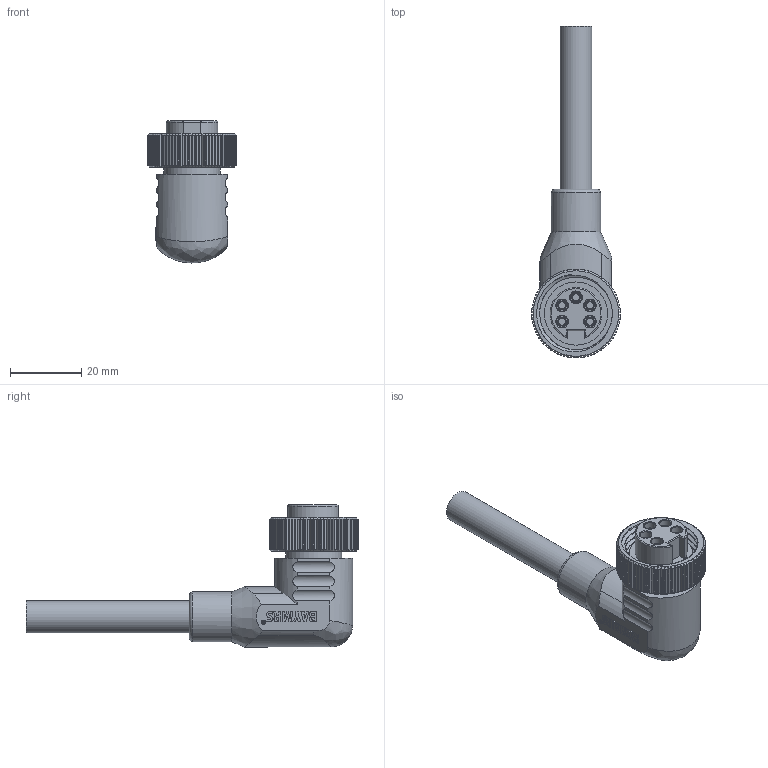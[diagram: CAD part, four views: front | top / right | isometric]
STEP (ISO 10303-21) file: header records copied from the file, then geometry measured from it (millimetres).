
FILE_DESCRIPTION(/* description */ (''),/* implementation_level */ '2;1');
FILE_NAME(/* name */ '7丿8-5FR-L.stp',/* time_stamp */ '2024-03-26T11:13:49+08:00',/* author */ (''),/* organization */ (''),/* preprocessor_version */ 'ST-DEVELOPER v16.7',/* originating_system */ 'SIEMENS PLM Software NX 12.0',/* authorisation */ '');
FILE_SCHEMA (('AP203_CONFIGURATION_CONTROLLED_3D_DESIGN_OF_MECHANICAL_PARTS_AND_ASSEMBLIES_MIM_LF { 1 0 10303 403 2 1 2}'));
Length unit declared in the file: millimetre
Products named in the file (1): Admi40947D13xn7l
Bounding box: 24.99 x 93.5 x 40 mm (x, y, z)
Volume: 20597.5 mm3; surface area: 9759.9 mm2
Topology: 1 solids, 12 shells, 691 faces, 1618 edges, 972 vertices
Faces by surface type: plane 319, cone 186, cylinder 157, extrusion 23, bspline 4, torus 2
Full cylindrical faces by diameter (mm): 2 x5, 2.5 x5, 3 x15, 3.1 x15, 3.2 x5, 9 x1, 14 x1, 15.8 x1, 16 x1, 17.8 x1
Entity records: 22071 total; most frequent: CARTESIAN_POINT 7070, ORIENTED_EDGE 3014, DIRECTION 2925, EDGE_CURVE 1507, AXIS2_PLACEMENT_3D 1157, VERTEX_POINT 930, EDGE_LOOP 821, ADVANCED_FACE 691
